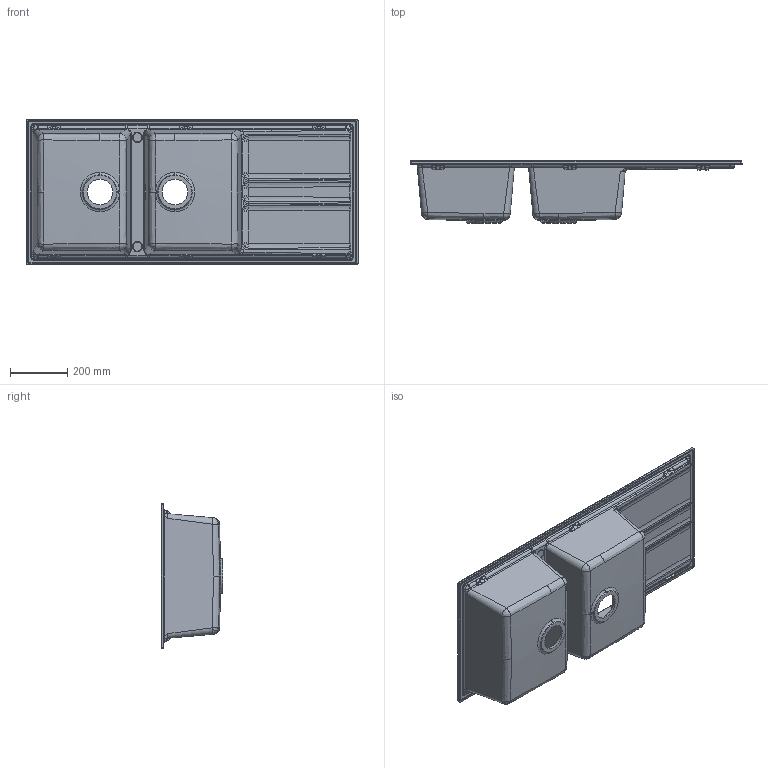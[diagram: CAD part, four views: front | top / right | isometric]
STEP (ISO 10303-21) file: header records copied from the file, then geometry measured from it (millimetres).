
FILE_DESCRIPTION (( 'STEP AP203' ), '1' );
FILE_NAME ('Best500.STEP', '2018-10-10T09:21:58', ( '' ), ( '' ), 'SwSTEP 2.0', 'SolidWorks 2013', '' );
FILE_SCHEMA (( 'CONFIG_CONTROL_DESIGN' ));
Products named in the file (1): Best500
Bounding box: 1160 x 216.51 x 510 mm (x, y, z)
Volume: 8915561.4 mm3; surface area: 2169611.9 mm2
Topology: 1 solids, 1 shells, 863 faces, 2033 edges, 1139 vertices
Faces by surface type: bspline 468, cylinder 274, plane 113, cone 8
Entity records: 47037 total; most frequent: CARTESIAN_POINT 30515, ORIENTED_EDGE 3958, DIRECTION 2749, EDGE_CURVE 1979, VERTEX_POINT 1139, AXIS2_PLACEMENT_3D 1119, EDGE_LOOP 890, FACE_OUTER_BOUND 863
